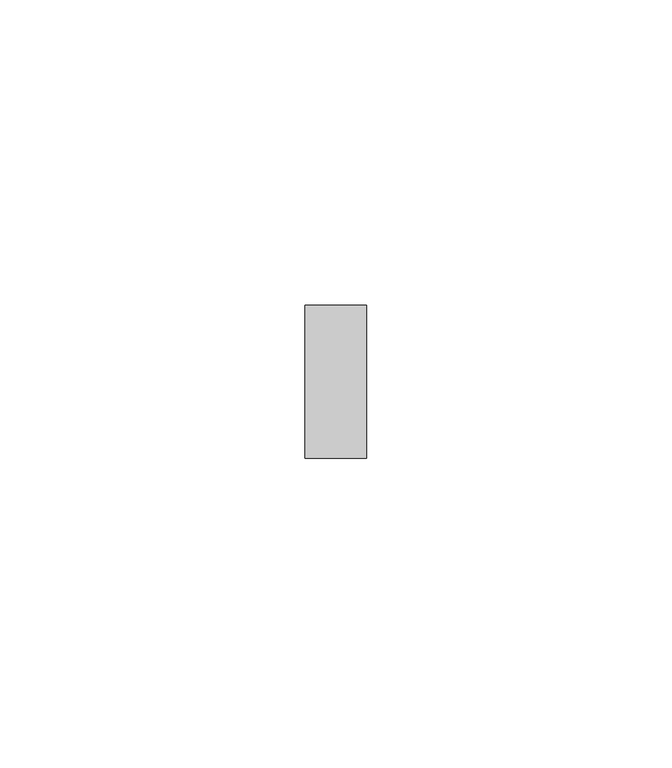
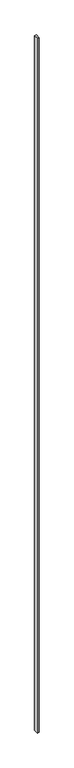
"""IFC4 building model written with IfcOpenShell, lengths in millimetres: plate geometry, 系统嵌板 : 玻璃."""

from ifc_helpers import new_model, si_unit, origin, origin_with_axes, place, context, project, spatial, polyline, outline, extrude, source, transform, mapped, element, save


def plate_bc78ace2(model_context):
    return source(origin(), model_context, "Body", "SweptSolid", [
        extrude(outline(polyline([(5.0, -12.5), (-5.0, -12.5), (-5.0, 12.5), (5.0, 12.5), (5.0, -12.5)])), origin_with_axes(), (0.0, 0.0, 1.0), 4000.0),
    ])


if __name__ == "__main__":
    model = new_model("IFC4")
    model_context = context("Model", 3, world=origin())
    ifc_project = project(units=[si_unit("LENGTHUNIT", "METRE", prefix="MILLI")], contexts=[model_context])
    site = spatial("IfcSite", under=ifc_project)
    building = spatial("IfcBuilding", under=site)
    placement = place(None, origin())
    plate_shape = plate_bc78ace2(model_context)
    element("IfcPlate", 1, ObjectType="系统嵌板 : 玻璃", at=placement, inside=building, context=model_context, shape_type="MappedRepresentation", body=[
        mapped(plate_shape, transform((0.0, 0.0, 0.0), x_axis=(1.0, 0.0, 0.0), y_axis=(0.0, 1.0, 0.0), z_axis=(0.0, 0.0, 1.0))),
    ])
    save(model, "model.ifc")
